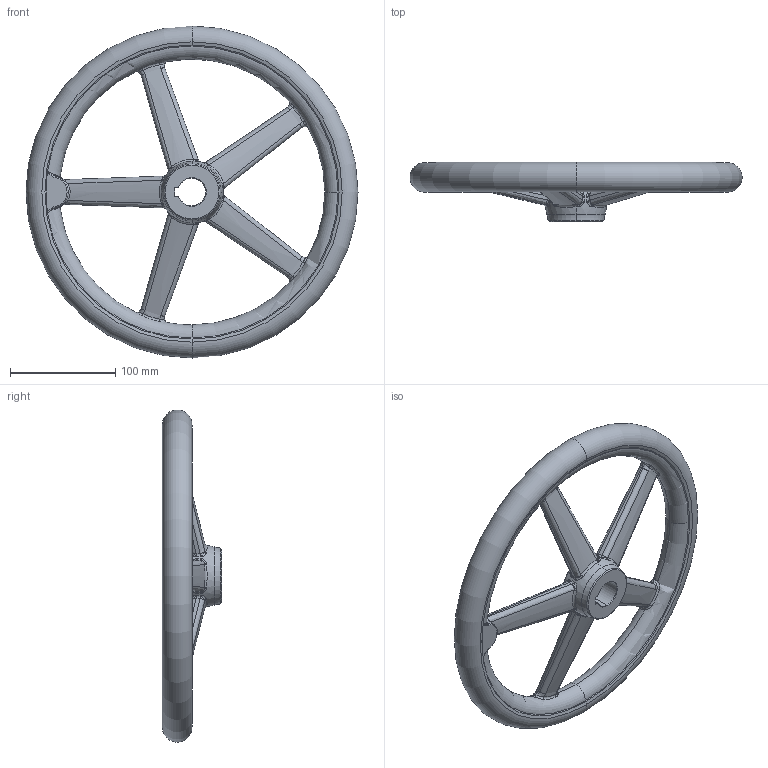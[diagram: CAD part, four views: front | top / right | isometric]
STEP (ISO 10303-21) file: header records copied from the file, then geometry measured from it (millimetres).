
FILE_DESCRIPTION (( 'STEP AP203' ), '1' );
FILE_NAME ('din950_a3_315x26.step', '2010-03-23T09:51:22', ( '_' ), ( '_' ), 'SwSTEP 2.0', 'SolidWorks 2010', '' );
FILE_SCHEMA (( 'CONFIG_CONTROL_DESIGN' ));
Length unit declared in the file: millimetre
Products named in the file (1): din950_a3_315x26
Bounding box: 314.89 x 56 x 314.89 mm (x, y, z)
Volume: 844297.9 mm3; surface area: 127888.3 mm2
Topology: 1 solids, 1 shells, 272 faces, 678 edges, 354 vertices
Faces by surface type: bspline 208, torus 20, cone 18, plane 17, cylinder 9
Entity records: 53530 total; most frequent: CARTESIAN_POINT 48551, ORIENTED_EDGE 1268, EDGE_CURVE 634, DIRECTION 600, B_SPLINE_CURVE_WITH_KNOTS 383, VERTEX_POINT 354, AXIS2_PLACEMENT_3D 284, EDGE_LOOP 274
